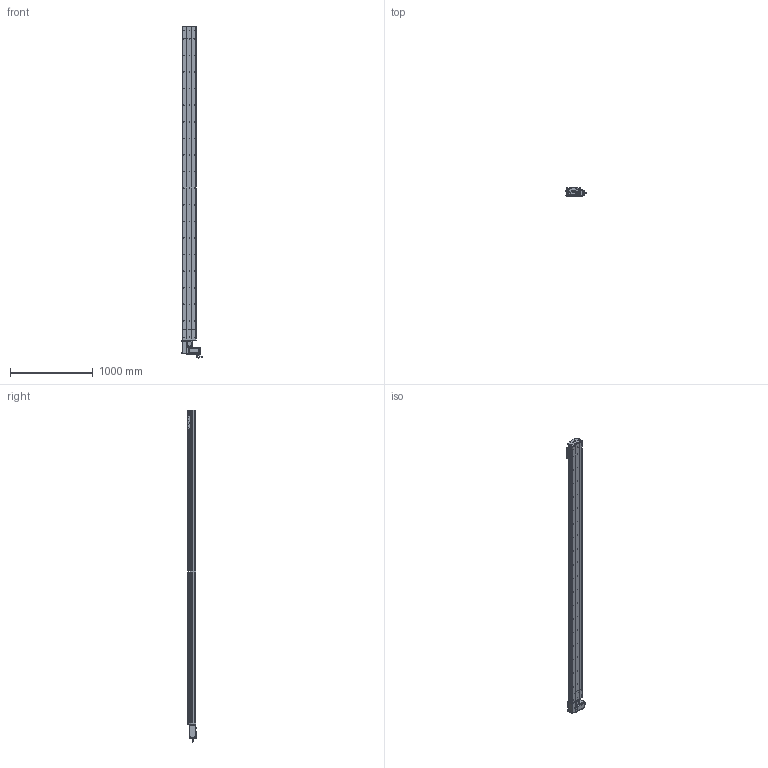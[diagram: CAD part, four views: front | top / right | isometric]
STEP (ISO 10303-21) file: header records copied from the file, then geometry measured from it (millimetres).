
FILE_DESCRIPTION (( 'STEP AP214' ), '1' );
FILE_NAME ('D17 TBH RH S3500.STEP', '2010-06-30T10:39:59', ( 'Christophe Gaillard' ), ( 'SGA' ), 'SwSTEP 2.0', 'SolidWorks 2010', '' );
FILE_SCHEMA (( 'AUTOMOTIVE_DESIGN' ));
Length unit declared in the file: millimetre
Products named in the file (40): Couroie tail D17B_Default; plaque de  bout head D17B RH_Default; plaque de  bout tail D17B_Default; course 3500 D17B_Default; vis M5 L12_Default; guide D17; Chariot D17; chariot D17S_Default; vis M5 L25_Default; Plaque racord D17_Default; Moteur motionking 90BLDC125A-640; avant 90BLDC125A-640; poulie head_Default; corp tail D17B+100_Default; tete d''axe poulie D17B; Rail D17B; cache D17_Default; vis M5 L5_Default; D17 TBH RH S3500; couvercle D17B head_Default; couroie head D17_Default; Arbre+rail head D17B; vis M5 L16_Default; corp D17B 3500_Default; poulie tail_Default; Couroie+ rail D17 Course 3500 ; vis M5 L70_Default; Conecteur2_Default; codeur 90BLDC125-640; Conecteur_Default; corps 90BLDC125A-640; cache arbre D17_Default; Vis M5 L16-2_Default; Tail D17B+100_Default; Renvoi RH_Default; couvercle D17B course L3500_Default; couvercle D17B_Default; vis M5 L8 90°_Default; Head RH D17B_Default; corpl head D17 _Default
Assembly tree (70 placements, depth 4):
  D17 TBH RH S3500
    Head RH D17B_Default
      cache D17_Default  x2
      couroie head D17_Default
      vis M5 L5_Default  x4
      vis M5 L12_Default  x8
      Arbre+rail head D17B
      couvercle D17B head_Default
      Renvoi RH_Default
      Vis M5 L16-2_Default  x4
      cache arbre D17_Default
      vis M5 L70_Default  x4
      corpl head D17 _Default
      Plaque racord D17_Default
      vis M5 L25_Default  x2
      poulie head_Default
      vis M5 L16_Default  x2
      Moteur motionking 90BLDC125A-640
        avant 90BLDC125A-640
        Conecteur_Default
        corps 90BLDC125A-640
        Conecteur2_Default
        codeur 90BLDC125-640
      plaque de  bout head D17B RH_Default
    chariot D17S_Default
      vis M5 L12_Default  x4
      guide D17  x2
      Chariot D17
    Tail D17B+100_Default
      couvercle D17B_Default
      vis M5 L12_Default  x4
      Rail D17B
      plaque de  bout tail D17B_Default
      poulie tail_Default
      vis M5 L25_Default  x2
      corp tail D17B+100_Default
      Couroie tail D17B_Default
      tete d''axe poulie D17B
      vis M5 L8 90°_Default  x2
    course 3500 D17B_Default
      Couroie+ rail D17 Course 3500 
      corp D17B 3500_Default
      couvercle D17B course L3500_Default
Bounding box: 245.2 x 105.65 x 4000.95 mm (x, y, z)
Volume: 22047552.5 mm3; surface area: 6455212.7 mm2
Topology: 94 solids, 94 shells, 2813 faces, 7235 edges, 4654 vertices
Faces by surface type: plane 1611, cylinder 889, bspline 136, cone 88, torus 85, sphere 4
Entity records: 89506 total; most frequent: CARTESIAN_POINT 26111, ORIENTED_EDGE 11242, DIRECTION 10630, EDGE_CURVE 5621, VERTEX_POINT 3678, LINE 3616, VECTOR 3616, AXIS2_PLACEMENT_3D 3507
